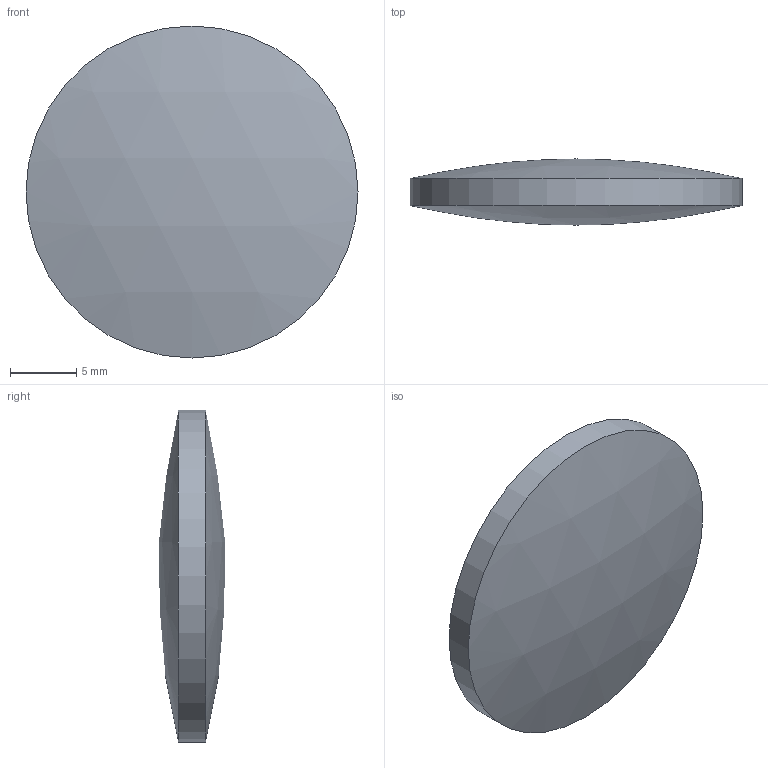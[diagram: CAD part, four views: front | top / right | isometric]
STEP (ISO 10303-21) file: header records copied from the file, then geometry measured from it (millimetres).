
FILE_DESCRIPTION((''),'2;1');
FILE_NAME('T:\Public\7_3次元データ\1図面ﾃﾞｰﾀ\7_素子\レンズ\5_球面両凸レンズ-BK7(SLB-B-P)\SLB-B-P\φ25\SLB-25B-50P\SLB-25B-50P.stp','2009-05-13T17:00:52',('okegawa'),(''),'Autodesk Inventor 2008','Autodesk Inventor 2008','');
FILE_SCHEMA(('AUTOMOTIVE_DESIGN { 1 0 10303 214 1 1 1 1 }'));
Length unit declared in the file: millimetre
Products named in the file (1): SLB-25B-50P
Bounding box: 25 x 4.98 x 25 mm (x, y, z)
Volume: 1757.2 mm3; surface area: 1157 mm2
Topology: 1 solids, 1 shells, 3 faces, 3 edges, 2 vertices
Faces by surface type: sphere 2, cylinder 1
Full cylindrical faces by diameter (mm): 25 x1
Entity records: 80 total; most frequent: DIRECTION 12, CARTESIAN_POINT 8, AXIS2_PLACEMENT_3D 6, ORIENTED_EDGE 4, EDGE_LOOP 4, FACE_OUTER_BOUND 3, ADVANCED_FACE 3, DIMENSIONAL_EXPONENTS 2
